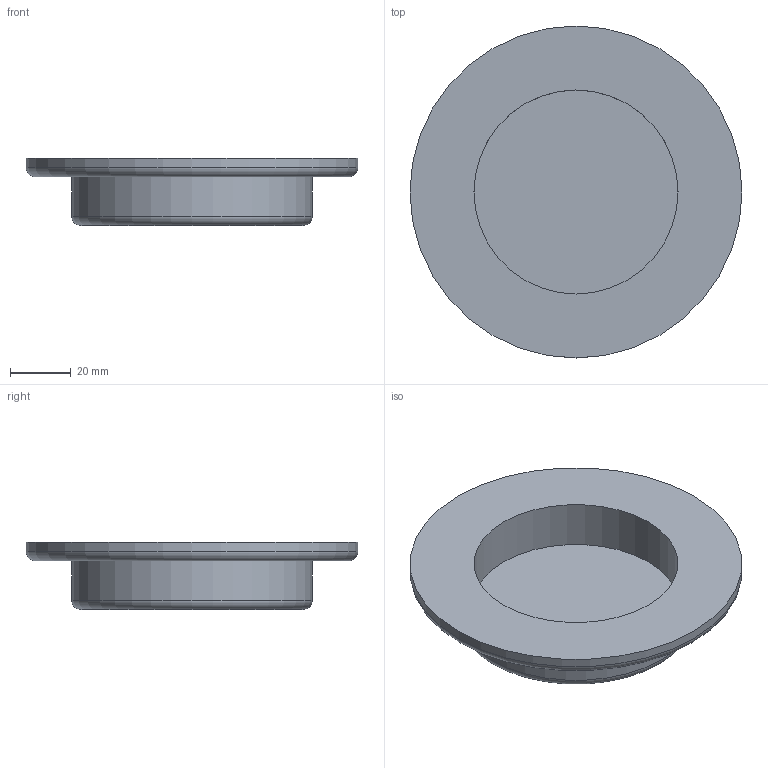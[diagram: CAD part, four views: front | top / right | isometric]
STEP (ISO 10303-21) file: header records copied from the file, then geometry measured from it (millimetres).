
FILE_DESCRIPTION((''),'2;1');
FILE_NAME('U:\Wolfgang\Marcel-3D\fertig\Kapitel 4\0801140.stp','2011-04-21T08:26:38',('TK1'),(''),'Autodesk Inventor 2010','Autodesk Inventor 2010','');
FILE_SCHEMA(('AUTOMOTIVE_DESIGN { 1 0 10303 214 1 1 1 1 }'));
Length unit declared in the file: millimetre
Products named in the file (1): 0801140
Bounding box: 109 x 109 x 22 mm (x, y, z)
Volume: 76879.7 mm3; surface area: 27287.5 mm2
Topology: 1 solids, 1 shells, 9 faces, 13 edges, 8 vertices
Faces by surface type: plane 4, cylinder 3, torus 2
Full cylindrical faces by diameter (mm): 67 x1, 79 x1, 109 x1
Entity records: 200 total; most frequent: DIRECTION 36, CARTESIAN_POINT 26, AXIS2_PLACEMENT_3D 18, ORIENTED_EDGE 16, EDGE_LOOP 16, FACE_OUTER_BOUND 9, ADVANCED_FACE 9, VERTEX_POINT 8
